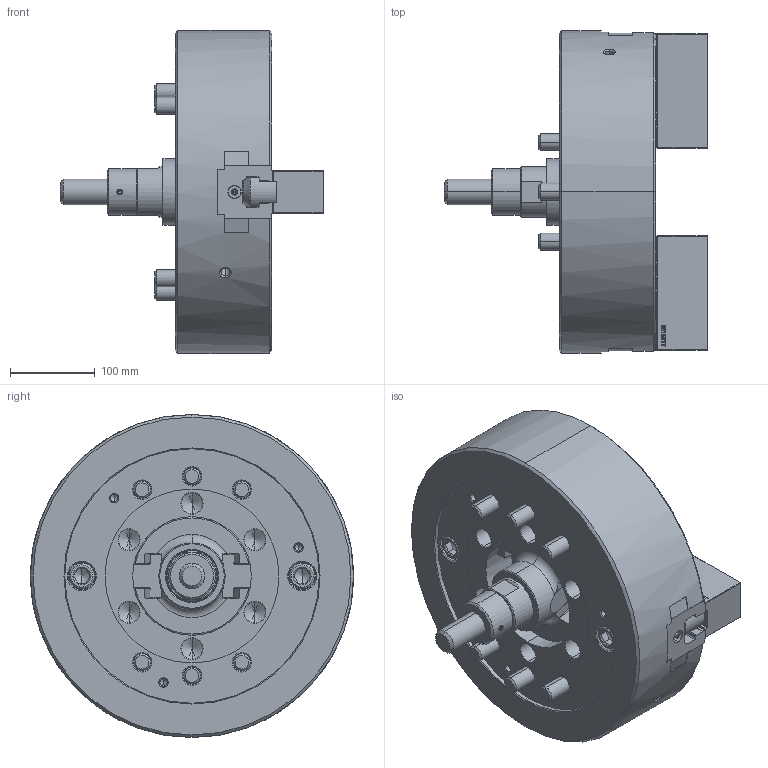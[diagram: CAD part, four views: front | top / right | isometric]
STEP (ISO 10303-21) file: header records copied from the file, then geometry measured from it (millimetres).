
FILE_DESCRIPTION (( 'STEP AP214' ), '1' );
FILE_NAME ('DT1_NT15_OUTSIDE_VIEW_HCL.STEP', '2026-03-23T23:33:00', ( '' ), ( '' ), 'SwSTEP 2.0', 'SolidWorks 2022', '' );
FILE_SCHEMA (( 'AUTOMOTIVE_DESIGN' ));
Length unit declared in the file: millimetre
Products named in the file (11): DT1_NT15_COVER^DT1_NT15; DT1_NT15_BASE^DT1_NT15; DT1_NT15_M6x12^DT1_NT15; Copy of 61P321208^DT1_NT15; DT1_NT15_M20x115^DT1_NT15; DT1_NT15_SOFTJAW^DT1_NT15; DT1_NT15_M20x55^DT1_NT15; DT1_NT15_OUTSIDE_VIEW_HCL; DT1_NT15_TNUT^DT1_NT15; DT1_NT15_DN^DT1_NT15; DT1_NT15_DRAWSCREW^DT1_NT15
Assembly tree (25 placements, depth 2):
  DT1_NT15_OUTSIDE_VIEW_HCL
    DT1_NT15_SOFTJAW^DT1_NT15  x2
    DT1_NT15_TNUT^DT1_NT15  x4
    DT1_NT15_COVER^DT1_NT15
    DT1_NT15_DRAWSCREW^DT1_NT15
    Copy of 61P321208^DT1_NT15
    DT1_NT15_DN^DT1_NT15
    DT1_NT15_BASE^DT1_NT15
    DT1_NT15_M6x12^DT1_NT15  x4
    DT1_NT15_M20x55^DT1_NT15  x4
    DT1_NT15_M20x115^DT1_NT15  x6
Bounding box: 310.5 x 381 x 381 mm (x, y, z)
Volume: 13013816.6 mm3; surface area: 877402 mm2
Topology: 25 solids, 25 shells, 4877 faces, 13925 edges, 9115 vertices
Faces by surface type: plane 2949, cylinder 1320, cone 385, bspline 179, torus 40, sphere 4
Entity records: 120825 total; most frequent: CARTESIAN_POINT 33203, ORIENTED_EDGE 20098, DIRECTION 15604, EDGE_CURVE 10049, LINE 7256, VECTOR 7256, VERTEX_POINT 6600, AXIS2_PLACEMENT_3D 4174
